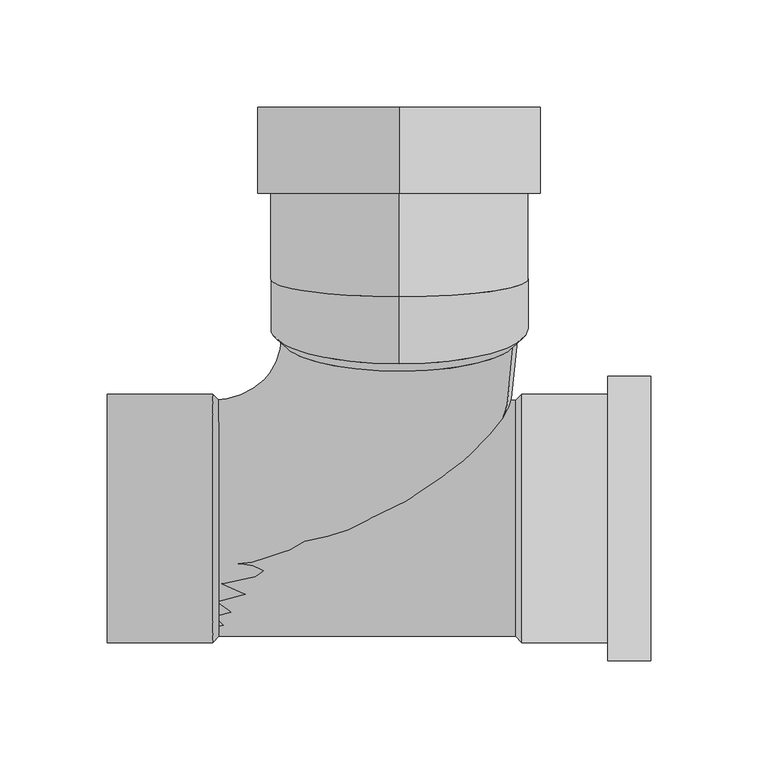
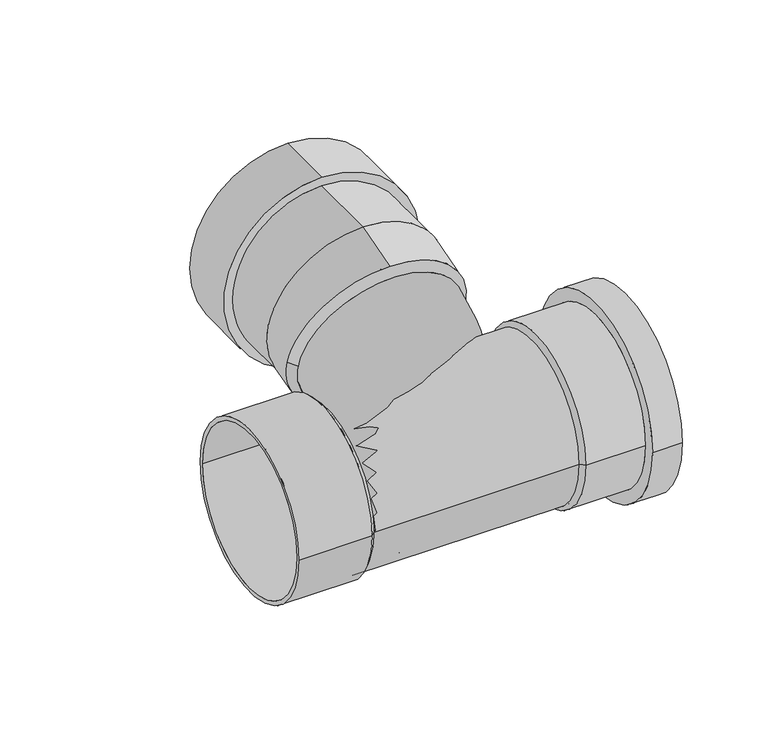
"""IFC4 building model written with IfcOpenShell, lengths in millimetres: pipe fitting geometry, Wavin_PipeAccessory_S&WSPvcBranchWc : 16º."""

from ifc_helpers import new_model, si_unit, point, frame, origin, origin_2d, place, context, project, spatial, polyline, circle_curve, ellipse_curve, trimmed, segment, composite_curve, outline, extrude, source, transform, mapped, element, save
from ifc_brep_helpers import plane_surface, cylinder_surface, revolved_surface, advanced_brep


def pipe_fitting_3aa7dfd5(model_context):
    return source(origin(), model_context, "Body", "SolidModel", [
        advanced_brep(
        [(54.1, 55.0, 0.0), (54.1, -55.0, 0.0), (117.0, -55.0, 0.0), (117.0, 55.0, 0.0), (97.0, 57.9, 0.0), (97.0, -57.9, 0.0), (57.0, -57.9, 0.0), (57.0, 57.9, 0.0), (117.0, 66.25, 0.0), (117.0, -66.25, 0.0), (97.0, -66.25, 0.0), (97.0, 66.25, 0.0)],
        [
            (0, 1, circle_curve(frame((54.1, 0.0, 0.0), z_axis=(-1.0, 0.0, 0.0), x_axis=(0.0, -1.000000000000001, 0.0)), 55.0)),
            (1, 2),
            (2, 3, circle_curve(frame((117.0, 0.0, 0.0), z_axis=(1.0, 0.0, 0.0), x_axis=(0.0, -1.000000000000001, 0.0)), 55.0)),
            (3, 0),
            (4, 5, circle_curve(frame((97.0, 0.0, 0.0), z_axis=(-1.0, 0.0, 0.0), x_axis=(0.0, -1.000000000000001, 0.0)), 57.9)),
            (5, 6),
            (6, 7, circle_curve(frame((57.0, 0.0, 0.0), z_axis=(1.0, 0.0, 0.0), x_axis=(0.0, -1.000000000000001, 0.0)), 57.9)),
            (7, 4),
            (1, 0, circle_curve(frame((54.1, 0.0, 0.0), z_axis=(-1.0, 0.0, 0.0), x_axis=(0.0, 1.000000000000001, 0.0)), 55.0)),
            (3, 2, circle_curve(frame((117.0, 0.0, 0.0), z_axis=(1.0, 0.0, 0.0), x_axis=(0.0, 1.000000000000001, 0.0)), 55.0)),
            (5, 4, circle_curve(frame((97.0, 0.0, 0.0), z_axis=(-1.0, 0.0, 0.0), x_axis=(0.0, 1.000000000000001, 0.0)), 57.9)),
            (7, 6, circle_curve(frame((57.0, 0.0, 0.0), z_axis=(1.0, 0.0, 0.0), x_axis=(0.0, 1.000000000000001, 0.0)), 57.9)),
            (8, 9, circle_curve(frame((117.0, 0.0, 0.0), z_axis=(-1.0, 0.0, 0.0), x_axis=(0.0, -1.000000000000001, 0.0)), 66.25)),
            (9, 10),
            (10, 11, circle_curve(frame((97.0, 0.0, 0.0), z_axis=(1.0, 0.0, 0.0), x_axis=(0.0, -1.000000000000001, 0.0)), 66.25)),
            (11, 8),
            (10, 11, circle_curve(frame((97.0, 0.0, 0.0), z_axis=(-1.0, 0.0, 0.0), x_axis=(0.0, 1.000000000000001, 0.0)), 66.25)),
            (9, 8, circle_curve(frame((117.0, 0.0, 0.0), z_axis=(-1.0, 0.0, 0.0), x_axis=(0.0, 1.000000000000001, 0.0)), 66.25)),
            (6, 1),
            (0, 7),
        ],
        [
            revolved_surface(polyline([(117.00000000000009, -55.000000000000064, 0.0), (54.099999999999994, -55.000000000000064, 0.0)]), (57.0, 0.0, 0.0), (1.0000000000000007, 0.0, 0.0)),
            cylinder_surface(frame((57.0, 0.0, 0.0), z_axis=(1.0000000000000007, 0.0, 0.0), x_axis=(0.0, -1.000000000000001, 0.0)), 57.9),
            revolved_surface(polyline([(117.00000000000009, 55.000000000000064, 0.0), (54.099999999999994, 55.000000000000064, 0.0)]), (57.0, 0.0, 0.0), (1.0000000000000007, 0.0, 0.0)),
            cylinder_surface(frame((57.0, 0.0, 0.0), z_axis=(1.0000000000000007, 0.0, 0.0), x_axis=(0.0, 1.000000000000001, 0.0)), 57.9),
            cylinder_surface(frame((57.0, 0.0, 0.0), z_axis=(1.0000000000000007, 0.0, 0.0), x_axis=(0.0, -1.000000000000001, 0.0)), 66.25),
            plane_surface(frame((97.0, 0.0, 0.0), z_axis=(-1.0, 0.0, 0.0), x_axis=(0.0, 1.0, 0.0))),
            cylinder_surface(frame((57.0, 0.0, 0.0), z_axis=(1.0000000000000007, 0.0, 0.0), x_axis=(0.0, 1.000000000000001, 0.0)), 66.25),
            plane_surface(frame((117.0, 0.0, 0.0), z_axis=(1.0, 0.0, 0.0), x_axis=(0.0, 1.0, 0.0))),
            revolved_surface(polyline([(54.1, -55.0, 0.0), (57.0, -57.9, 0.0)]), (57.0, 0.0, 0.0), (1.0000000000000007, 0.0, 0.0)),
            revolved_surface(polyline([(54.1, 55.0, 0.0), (57.0, 57.9, 0.0)]), (57.0, 0.0, 0.0), (1.0000000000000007, 0.0, 0.0)),
        ],
        [
            (0, [[1, 2, 3, 4]]),
            (1, [[5, 6, 7, 8]]),
            (2, [[9, -4, 10, -2]]),
            (3, [[11, -8, 12, -6]]),
            (4, [[13, 14, 15, 16]]),
            (5, [[17, -15], [-11, -5]]),
            (6, [[18, -16, -17, -14]]),
            (7, [[-18, -13], [-10, -3]]),
            (8, [[-7, 19, -1, 20]]),
            (9, [[-12, -20, -9, -19]]),
        ],
    ),
        advanced_brep(
        [(-87.0, -57.9, 0.0), (-87.0, 57.9, 0.0), (-84.1, 55.0, 0.0), (-84.1, -55.0, 0.0), (-136.0, -57.9, 0.0), (-136.0, 57.9, 0.0), (-136.0, 55.0, 0.0), (-136.0, -55.0, 0.0)],
        [
            (0, 1, circle_curve(frame((-87.0, 0.0, 0.0), z_axis=(1.0, 0.0, 0.0), x_axis=(0.0, 1.0000000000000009, 0.0)), 57.9)),
            (1, 2),
            (2, 3, circle_curve(frame((-84.1, 0.0, 0.0), z_axis=(-1.0, 0.0, 0.0), x_axis=(0.0, 1.0000000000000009, 0.0)), 55.0)),
            (3, 0),
            (4, 5, circle_curve(frame((-136.0, 0.0, 0.0), z_axis=(1.0, 0.0, 0.0), x_axis=(0.0, 1.0000000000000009, 0.0)), 57.9)),
            (5, 1),
            (0, 4),
            (2, 6),
            (6, 7, circle_curve(frame((-136.0, 0.0, 0.0), z_axis=(-1.0, 0.0, 0.0), x_axis=(0.0, 1.0000000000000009, 0.0)), 55.0)),
            (7, 3),
            (1, 0, circle_curve(frame((-87.0, 0.0, 0.0), z_axis=(1.0, 0.0, 0.0), x_axis=(0.0, -1.0000000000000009, 0.0)), 57.9)),
            (3, 2, circle_curve(frame((-84.1, 0.0, 0.0), z_axis=(-1.0, 0.0, 0.0), x_axis=(0.0, -1.0000000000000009, 0.0)), 55.0)),
            (5, 4, circle_curve(frame((-136.0, 0.0, 0.0), z_axis=(1.0, 0.0, 0.0), x_axis=(0.0, -1.0000000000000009, 0.0)), 57.9)),
            (6, 7, circle_curve(frame((-136.0, 0.0, 0.0), z_axis=(1.0, 0.0, 0.0), x_axis=(0.0, -1.0000000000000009, 0.0)), 55.0)),
        ],
        [
            revolved_surface(polyline([(-84.1, 55.0, 0.0), (-87.0, 57.9, 0.0)]), (-87.0, 0.0, 0.0), (-1.0000000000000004, 0.0, 0.0)),
            cylinder_surface(frame((-87.0, 0.0, 0.0), z_axis=(-1.0000000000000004, 0.0, 0.0), x_axis=(0.0, 1.0000000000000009, 0.0)), 57.9),
            revolved_surface(polyline([(-136.00000000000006, 55.00000000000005, 0.0), (-84.1, 55.00000000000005, 0.0)]), (-87.0, 0.0, 0.0), (-1.0000000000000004, 0.0, 0.0)),
            revolved_surface(polyline([(-84.1, -55.0, 0.0), (-87.0, -57.9, 0.0)]), (-87.0, 0.0, 0.0), (-1.0000000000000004, 0.0, 0.0)),
            cylinder_surface(frame((-87.0, 0.0, 0.0), z_axis=(-1.0000000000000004, 0.0, 0.0), x_axis=(0.0, -1.0000000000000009, 0.0)), 57.9),
            plane_surface(frame((-136.0, 0.0, 0.0), z_axis=(-1.0, 0.0, 0.0), x_axis=(0.0, -1.0, 0.0))),
            revolved_surface(polyline([(-136.00000000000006, -55.00000000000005, 0.0), (-84.1, -55.00000000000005, 0.0)]), (-87.0, 0.0, 0.0), (-1.0000000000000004, 0.0, 0.0)),
        ],
        [
            (0, [[1, 2, 3, 4]]),
            (1, [[5, 6, -1, 7]]),
            (2, [[-3, 8, 9, 10]]),
            (3, [[11, -4, 12, -2]]),
            (4, [[13, -7, -11, -6]]),
            (5, [[-13, -5], [14, -9]]),
            (6, [[-12, -10, -14, -8]]),
        ],
    ),
        advanced_brep(
        [(-87.0, -55.0, 0.0), (-87.0, 55.0, 0.0), (-52.8693933, 87.8084449, 9.4076702), (55.0, 83.6297675, 23.98045), (52.8693933, 79.4510902, 38.5532297), (-55.0, 83.6297675, 23.98045), (0.0, 191.3901418, -34.0), (0.0, 191.3901418, 98.0), (0.0, 191.3901418, 88.5), (0.0, 191.3901418, -24.5), (0.0, 103.1648121, 92.0), (0.0, 120.0297123, -28.0), (0.0, 151.3901418, -28.0), (0.0, 151.3901418, 92.0), (0.0, 71.8978347, 83.0343385), (60.0, 88.436076, 25.3586367), (0.0, 104.9743174, -32.317065), (-60.0, 88.436076, 25.3586367), (0.0, 151.3901418, -34.0), (0.0, 151.3901418, 98.0), (0.0, 121.3901418, 88.5), (0.0, 121.3901418, -24.5)],
        [
            (0, 1, circle_curve(frame((-87.0, 0.0, 0.0), z_axis=(-1.0, 0.0, 0.0), x_axis=(0.0, 1.0, 0.0)), 55.0)),
            (1, 0, circle_curve(frame((-87.0, 0.0, 0.0), z_axis=(-1.0, 0.0, 0.0), x_axis=(0.0, 1.0, 0.0)), 55.0)),
            (1, 2, circle_curve(frame((-87.0, 87.8084449, 9.4076702), z_axis=(0.0, -0.27563735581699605, 0.9612616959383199), x_axis=(1.0, 0.0, 0.0)), 34.1306067)),
            (2, 3, circle_curve(frame((0.0, 83.6297675, 23.98045), z_axis=(0.0, -0.9612616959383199, -0.27563735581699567), x_axis=(-0.9612616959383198, 0.07597595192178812, -0.2649596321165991)), 55.0)),
            (3, 4, circle_curve(frame((0.0, 83.6297675, 23.98045), z_axis=(0.0, -0.9612616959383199, -0.27563735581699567), x_axis=(-0.9612616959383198, 0.07597595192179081, -0.26495963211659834)), 55.0)),
            (4, 0, circle_curve(frame((-87.0, 79.4510902, 38.5532297), z_axis=(0.0, 0.27563735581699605, -0.9612616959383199), x_axis=(1.0, 0.0, 0.0)), 139.8693933)),
            (4, 5, circle_curve(frame((0.0, 83.6297675, 23.98045), z_axis=(0.0, -0.9612616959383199, -0.27563735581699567), x_axis=(-0.9612616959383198, 0.07597595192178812, -0.2649596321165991)), 55.0)),
            (5, 2, circle_curve(frame((0.0, 83.6297675, 23.98045), z_axis=(0.0, -0.9612616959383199, -0.27563735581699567), x_axis=(-0.9612616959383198, 0.0759759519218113, -0.26495963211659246)), 55.0)),
            (6, 7, circle_curve(frame((0.0, 191.3901418, 32.0), z_axis=(0.0, 1.0, 0.0), x_axis=(0.0, 0.0, 1.0)), 66.0)),
            (7, 6, circle_curve(frame((0.0, 191.3901418, 32.0), z_axis=(0.0, 1.0, 0.0), x_axis=(0.0, 0.0, 1.0)), 66.0)),
            (8, 9, circle_curve(frame((0.0, 191.3901418, 32.0), z_axis=(0.0, -1.0, 0.0), x_axis=(0.0, 0.0, -1.0)), 56.5)),
            (9, 8, circle_curve(frame((0.0, 191.3901418, 32.0), z_axis=(0.0, -1.0, 0.0), x_axis=(0.0, 0.0, -1.0)), 56.5)),
            (10, 11, ellipse_curve(frame((0.0, 111.5972622, 32.0), z_axis=(0.0, 0.9902680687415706, 0.1391731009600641), x_axis=(0.0, 0.13917310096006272, -0.9902680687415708)), 60.5896544, 60.0)),
            (11, 12),
            (12, 13, circle_curve(frame((0.0, 151.3901418, 32.0), z_axis=(0.0, -1.0, 0.0), x_axis=(0.0, 0.0, -1.0)), 60.0)),
            (13, 10),
            (11, 10, ellipse_curve(frame((0.0, 111.5972622, 32.0), z_axis=(0.0, 0.9902680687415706, 0.1391731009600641), x_axis=(0.0, 0.13917310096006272, -0.9902680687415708)), 60.5896544, 60.0)),
            (13, 12, circle_curve(frame((0.0, 151.3901418, 32.0), z_axis=(0.0, -1.0, 0.0), x_axis=(0.0, 0.0, -1.0)), 60.0)),
            (10, 14),
            (14, 15, circle_curve(frame((0.0, 88.436076, 25.3586367), z_axis=(0.0, 0.9612616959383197, 0.2756373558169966), x_axis=(0.0, 0.2756373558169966, -0.9612616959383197)), 60.0)),
            (15, 16, circle_curve(frame((0.0, 88.436076, 25.3586367), z_axis=(0.0, 0.9612616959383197, 0.2756373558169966), x_axis=(0.0, 0.2756373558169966, -0.9612616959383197)), 60.0)),
            (16, 11),
            (16, 17, circle_curve(frame((0.0, 88.436076, 25.3586367), z_axis=(0.0, 0.9612616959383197, 0.2756373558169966), x_axis=(0.0, 0.2756373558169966, -0.9612616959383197)), 60.0)),
            (17, 14, circle_curve(frame((0.0, 88.436076, 25.3586367), z_axis=(0.0, 0.9612616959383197, 0.2756373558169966), x_axis=(0.0, 0.2756373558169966, -0.9612616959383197)), 60.0)),
            (18, 19, circle_curve(frame((0.0, 151.3901418, 32.0), z_axis=(0.0, -1.0, 0.0), x_axis=(0.0, 0.0, 1.0)), 66.0)),
            (19, 18, circle_curve(frame((0.0, 151.3901418, 32.0), z_axis=(0.0, -1.0, 0.0), x_axis=(0.0, 0.0, 1.0)), 66.0)),
            (19, 7),
            (6, 18),
            (20, 21, circle_curve(frame((0.0, 121.3901418, 32.0), z_axis=(0.0, 1.0, 0.0), x_axis=(0.0, 0.0, -1.0)), 56.5)),
            (21, 20, circle_curve(frame((0.0, 121.3901418, 32.0), z_axis=(0.0, 1.0, 0.0), x_axis=(0.0, 0.0, -1.0)), 56.5)),
            (21, 9),
            (8, 20),
            (15, 3),
            (5, 17),
        ],
        [
            plane_surface(frame((-87.0, 97.4116353, -24.0826348), z_axis=(-1.0, 0.0, 0.0), x_axis=(0.0, -0.9612616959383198, -0.27563735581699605))),
            revolved_surface(trimmed(ellipse_curve(frame((0.0, 83.6297675, 23.98045), z_axis=(0.0, 0.9612616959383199, 0.27563735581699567), x_axis=(-0.9612616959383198, 0.07597595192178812, -0.2649596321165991)), 55.0, 55.0), [point((52.8693933, 79.4510902, 38.5532297))], [point((-52.8693933, 87.8084449, 9.4076702))], True, "CARTESIAN"), (-87.0, 97.4116353, -24.0826348), (0.0, 0.275637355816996, -0.9612616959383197)),
            revolved_surface(trimmed(ellipse_curve(frame((0.0, 83.6297675, 23.98045), z_axis=(0.0, 0.9612616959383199, 0.27563735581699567), x_axis=(-0.9612616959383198, 0.07597595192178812, -0.2649596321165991)), 55.0, 55.0), [point((-52.8693933, 87.8084449, 9.4076702))], [point((52.8693933, 79.4510902, 38.5532297))], True, "CARTESIAN"), (-87.0, 97.4116353, -24.0826348), (0.0, 0.275637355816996, -0.9612616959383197)),
            plane_surface(frame((0.0, 191.3901418, 32.0), z_axis=(0.0, 1.0, 0.0), x_axis=(1.0, 0.0, 0.0))),
            cylinder_surface(frame((0.0, 191.3901418, 32.0), z_axis=(0.0, 1.0, 0.0), x_axis=(0.0, 0.0, -1.0)), 60.0),
            cylinder_surface(frame((0.0, 111.5972622, 32.0), z_axis=(0.0, 0.9612616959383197, 0.2756373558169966), x_axis=(0.0, 0.2756373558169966, -0.9612616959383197)), 60.0),
            plane_surface(frame((0.0, 151.3901418, 98.0), z_axis=(0.0, -1.0, 0.0), x_axis=(-1.0, 0.0, 0.0))),
            cylinder_surface(frame((0.0, 151.3901418, 32.0), z_axis=(0.0, 1.0, 0.0), x_axis=(0.0, 0.0, 1.0)), 66.0),
            plane_surface(frame((0.0, 121.3901418, -24.5), z_axis=(0.0, 1.0, 0.0), x_axis=(1.0, 0.0, 0.0))),
            revolved_surface(polyline([(0.0, 121.3901418, -24.5), (0.0, 191.3901418, -24.5)]), (0.0, 191.3901418, 32.0), (0.0, -1.0, 0.0)),
            revolved_surface(polyline([(-60.0, 88.436076, 25.3586367), (-55.0, 83.6297675, 23.98045)]), (0.0, 83.6297675, 23.98045), (0.0, -0.9612616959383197, -0.27563735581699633)),
            revolved_surface(polyline([(60.0, 88.436076, 25.3586367), (55.0, 83.6297675, 23.98045)]), (0.0, 83.6297675, 23.98045), (0.0, -0.9612616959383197, -0.27563735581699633)),
        ],
        [
            (0, [[1, 2]]),
            (1, [[-2, 3, 4, 5, 6]]),
            (2, [[-1, -6, 7, 8, -3]]),
            (3, [[9, 10], [11, 12]]),
            (4, [[13, 14, 15, 16]]),
            (4, [[17, -16, 18, -14]]),
            (5, [[-13, 19, 20, 21, 22]]),
            (5, [[-17, -22, 23, 24, -19]]),
            (6, [[25, 26], [-15, -18]]),
            (7, [[-26, 27, -9, 28]]),
            (7, [[-25, -28, -10, -27]]),
            (8, [[29, 30]]),
            (9, [[-30, 31, -11, 32]]),
            (9, [[-29, -32, -12, -31]]),
            (10, [[33, -4, -8, 34, -23, -21]]),
            (11, [[-33, -20, -24, -34, -7, -5]]),
        ],
    ),
        extrude(outline(composite_curve([segment(trimmed(circle_curve(origin_2d(), 55.0), [point((-55.0, 0.0))], [point((55.0, 0.0))], False, "CARTESIAN"), True, "CONTINUOUS"), segment(trimmed(circle_curve(origin_2d(), 55.0), [point((55.0, 0.0))], [point((-55.0, 0.0))], False, "CARTESIAN"), True, "CONTINUOUS")], self_intersect=False)), frame((-87.0, 0.0, 0.0), z_axis=(1.0, 0.0, 0.0), x_axis=(0.0, 1.0, 0.0)), (0.0, 0.0, 1.0), 144.0),
    ])


if __name__ == "__main__":
    model = new_model("IFC4")
    model_context = context("Model", 3, world=origin())
    ifc_project = project(units=[si_unit("LENGTHUNIT", "METRE", prefix="MILLI")], contexts=[model_context])
    site = spatial("IfcSite", under=ifc_project)
    building = spatial("IfcBuilding", under=site)
    placement = place(None, origin())
    pipe_fitting_shape = pipe_fitting_3aa7dfd5(model_context)
    element("IfcPipeFitting", 1, ObjectType="Wavin_PipeAccessory_S&WSPvcBranchWc : 16º", at=placement, inside=building, context=model_context, shape_type="MappedRepresentation", body=[
        mapped(pipe_fitting_shape, transform((0.0, 0.0, 0.0), x_axis=(1.0, 0.0, 0.0), y_axis=(0.0, 1.0, 0.0), z_axis=(0.0, 0.0, 1.0))),
    ])
    save(model, "model.ifc")
